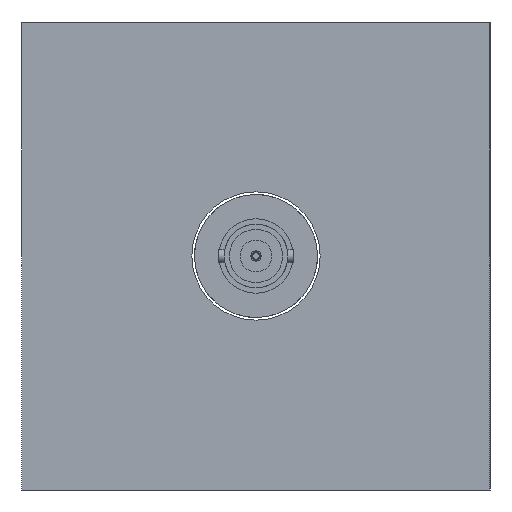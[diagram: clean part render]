
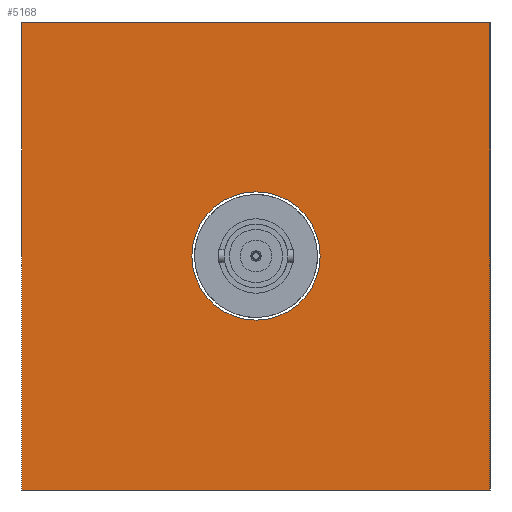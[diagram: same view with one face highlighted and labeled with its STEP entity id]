
A CAD part, left-side view. The second image highlights one B-rep face of the part: STEP entity #5168.
In plain terms, the highlighted planar face has unit normal (-1, 0, 0).
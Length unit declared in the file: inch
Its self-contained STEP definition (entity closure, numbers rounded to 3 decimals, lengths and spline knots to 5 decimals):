
#137=CIRCLE('',#5367,0.377);
#480=ORIENTED_EDGE('',*,*,#1308,.T.);
#481=ORIENTED_EDGE('',*,*,#1306,.T.);
#482=ORIENTED_EDGE('',*,*,#1303,.T.);
#483=ORIENTED_EDGE('',*,*,#1300,.T.);
#484=ORIENTED_EDGE('',*,*,#1117,.T.);
#1117=EDGE_CURVE('',#1561,#1561,#137,.T.);
#1300=EDGE_CURVE('',#1736,#1738,#2032,.T.);
#1303=EDGE_CURVE('',#1740,#1736,#2035,.T.);
#1306=EDGE_CURVE('',#1742,#1740,#2038,.T.);
#1308=EDGE_CURVE('',#1738,#1742,#2040,.T.);
#1561=VERTEX_POINT('',#6660);
#1736=VERTEX_POINT('',#7069);
#1738=VERTEX_POINT('',#7073);
#1740=VERTEX_POINT('',#7078);
#1742=VERTEX_POINT('',#7084);
#2032=LINE('',#7074,#2346);
#2035=LINE('',#7080,#2349);
#2038=LINE('',#7086,#2352);
#2040=LINE('',#7089,#2354);
#2346=VECTOR('',#6031,39.37008);
#2349=VECTOR('',#6036,39.37008);
#2352=VECTOR('',#6041,39.37008);
#2354=VECTOR('',#6045,39.37008);
#2628=EDGE_LOOP('',(#480,#481,#482,#483));
#2629=EDGE_LOOP('',(#484));
#2994=FACE_BOUND('',#2628,.T.);
#2995=FACE_BOUND('',#2629,.T.);
#3285=PLANE('',#5460);
#5168=ADVANCED_FACE('',(#2994,#2995),#3285,.T.);
#5367=AXIS2_PLACEMENT_3D('',#6659,#5704,#5705);
#5460=AXIS2_PLACEMENT_3D('',#7090,#6046,#6047);
#5704=DIRECTION('',(1.,0.,0.));
#5705=DIRECTION('',(0.,0.,1.));
#6031=DIRECTION('',(0.,1.,0.));
#6036=DIRECTION('',(0.,0.,1.));
#6041=DIRECTION('',(0.,-1.,0.));
#6045=DIRECTION('',(0.,0.,-1.));
#6046=DIRECTION('',(-1.,0.,0.));
#6047=DIRECTION('',(0.,0.,1.));
#6659=CARTESIAN_POINT('',(0.,0.,0.));
#6660=CARTESIAN_POINT('',(0.,0.,0.377));
#7069=CARTESIAN_POINT('',(0.,-1.375,1.375));
#7073=CARTESIAN_POINT('',(0.,1.375,1.375));
#7074=CARTESIAN_POINT('',(0.,-1.375,1.375));
#7078=CARTESIAN_POINT('',(0.,-1.375,-1.375));
#7080=CARTESIAN_POINT('',(0.,-1.375,-1.375));
#7084=CARTESIAN_POINT('',(0.,1.375,-1.375));
#7086=CARTESIAN_POINT('',(0.,1.375,-1.375));
#7089=CARTESIAN_POINT('',(0.,1.375,1.375));
#7090=CARTESIAN_POINT('',(0.,0.,0.));
